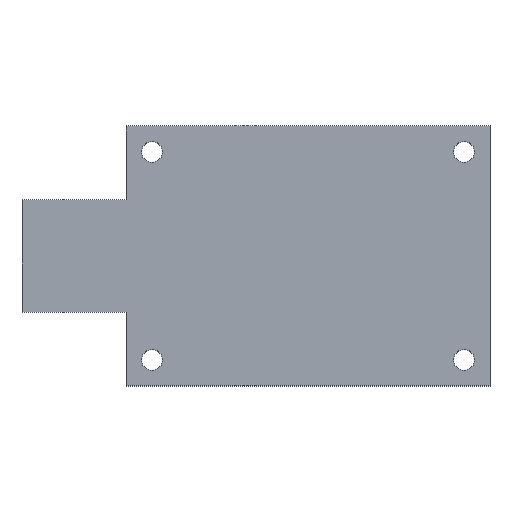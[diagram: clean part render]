
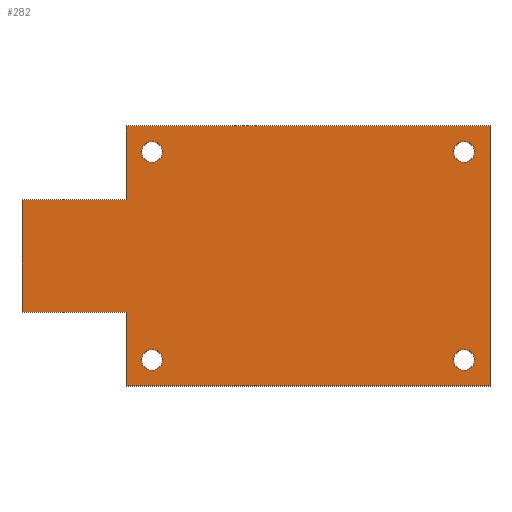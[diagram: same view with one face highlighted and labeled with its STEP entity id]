
A CAD part, top view. The second image highlights one B-rep face of the part: STEP entity #282.
In plain terms, the highlighted planar face has unit normal (0, 0, 1).
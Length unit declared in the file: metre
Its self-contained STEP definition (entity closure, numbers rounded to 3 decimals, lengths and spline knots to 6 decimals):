
#17=CIRCLE('',#312,0.0012);
#18=CIRCLE('',#313,0.0012);
#19=CIRCLE('',#314,0.0012);
#20=CIRCLE('',#315,0.0012);
#59=ORIENTED_EDGE('',*,*,#119,.T.);
#60=ORIENTED_EDGE('',*,*,#120,.T.);
#61=ORIENTED_EDGE('',*,*,#121,.T.);
#62=ORIENTED_EDGE('',*,*,#122,.T.);
#63=ORIENTED_EDGE('',*,*,#97,.F.);
#64=ORIENTED_EDGE('',*,*,#101,.T.);
#65=ORIENTED_EDGE('',*,*,#104,.F.);
#66=ORIENTED_EDGE('',*,*,#107,.F.);
#67=ORIENTED_EDGE('',*,*,#110,.T.);
#68=ORIENTED_EDGE('',*,*,#113,.T.);
#69=ORIENTED_EDGE('',*,*,#116,.T.);
#70=ORIENTED_EDGE('',*,*,#118,.T.);
#97=EDGE_CURVE('',#131,#132,#157,.T.);
#101=EDGE_CURVE('',#131,#134,#161,.T.);
#104=EDGE_CURVE('',#136,#134,#164,.T.);
#107=EDGE_CURVE('',#138,#136,#167,.T.);
#110=EDGE_CURVE('',#138,#140,#170,.T.);
#113=EDGE_CURVE('',#140,#142,#173,.T.);
#116=EDGE_CURVE('',#142,#144,#176,.T.);
#118=EDGE_CURVE('',#144,#132,#178,.T.);
#119=EDGE_CURVE('',#145,#145,#17,.T.);
#120=EDGE_CURVE('',#146,#146,#18,.T.);
#121=EDGE_CURVE('',#147,#147,#19,.T.);
#122=EDGE_CURVE('',#148,#148,#20,.T.);
#131=VERTEX_POINT('',#413);
#132=VERTEX_POINT('',#415);
#134=VERTEX_POINT('',#421);
#136=VERTEX_POINT('',#427);
#138=VERTEX_POINT('',#433);
#140=VERTEX_POINT('',#439);
#142=VERTEX_POINT('',#445);
#144=VERTEX_POINT('',#451);
#145=VERTEX_POINT('',#458);
#146=VERTEX_POINT('',#460);
#147=VERTEX_POINT('',#462);
#148=VERTEX_POINT('',#464);
#157=LINE('',#414,#181);
#161=LINE('',#422,#185);
#164=LINE('',#428,#188);
#167=LINE('',#434,#191);
#170=LINE('',#440,#194);
#173=LINE('',#446,#197);
#176=LINE('',#452,#200);
#178=LINE('',#455,#202);
#181=VECTOR('',#335,1.);
#185=VECTOR('',#341,1.);
#188=VECTOR('',#346,1.);
#191=VECTOR('',#351,1.);
#194=VECTOR('',#356,1.);
#197=VECTOR('',#361,1.);
#200=VECTOR('',#366,1.);
#202=VECTOR('',#370,1.);
#211=EDGE_LOOP('',(#59));
#212=EDGE_LOOP('',(#60));
#213=EDGE_LOOP('',(#61));
#214=EDGE_LOOP('',(#62));
#215=EDGE_LOOP('',(#63,#64,#65,#66,#67,#68,#69,#70));
#241=FACE_BOUND('',#211,.T.);
#242=FACE_BOUND('',#212,.T.);
#243=FACE_BOUND('',#213,.T.);
#244=FACE_BOUND('',#214,.T.);
#245=FACE_BOUND('',#215,.T.);
#271=PLANE('',#311);
#282=ADVANCED_FACE('',(#241,#242,#243,#244,#245),#271,.T.);
#311=AXIS2_PLACEMENT_3D('',#456,#371,#372);
#312=AXIS2_PLACEMENT_3D('',#457,#373,#374);
#313=AXIS2_PLACEMENT_3D('',#459,#375,#376);
#314=AXIS2_PLACEMENT_3D('',#461,#377,#378);
#315=AXIS2_PLACEMENT_3D('',#463,#379,#380);
#335=DIRECTION('',(-1.,0.,0.));
#341=DIRECTION('',(0.,-1.,0.));
#346=DIRECTION('',(-1.,0.,0.));
#351=DIRECTION('',(0.,-1.,0.));
#356=DIRECTION('',(-1.,0.,0.));
#361=DIRECTION('',(0.,-1.,0.));
#366=DIRECTION('',(-1.,0.,0.));
#370=DIRECTION('',(0.,-1.,0.));
#371=DIRECTION('',(0.,0.,1.));
#372=DIRECTION('',(0.,1.,0.));
#373=DIRECTION('',(0.,0.,-1.));
#374=DIRECTION('',(0.,-1.,0.));
#375=DIRECTION('',(0.,0.,-1.));
#376=DIRECTION('',(0.,-1.,0.));
#377=DIRECTION('',(0.,0.,-1.));
#378=DIRECTION('',(0.,-1.,0.));
#379=DIRECTION('',(0.,0.,-1.));
#380=DIRECTION('',(0.,-1.,0.));
#413=CARTESIAN_POINT('',(-0.021,-0.0065,0.006));
#414=CARTESIAN_POINT('',(-0.027,-0.0065,0.006));
#415=CARTESIAN_POINT('',(-0.033,-0.0065,0.006));
#421=CARTESIAN_POINT('',(-0.021,-0.015,0.006));
#422=CARTESIAN_POINT('',(-0.021,-0.01075,0.006));
#427=CARTESIAN_POINT('',(0.021,-0.015,0.006));
#428=CARTESIAN_POINT('',(0.,-0.015,0.006));
#433=CARTESIAN_POINT('',(0.021,0.015,0.006));
#434=CARTESIAN_POINT('',(0.021,0.,0.006));
#439=CARTESIAN_POINT('',(-0.021,0.015,0.006));
#440=CARTESIAN_POINT('',(0.,0.015,0.006));
#445=CARTESIAN_POINT('',(-0.021,0.0065,0.006));
#446=CARTESIAN_POINT('',(-0.021,0.01075,0.006));
#451=CARTESIAN_POINT('',(-0.033,0.0065,0.006));
#452=CARTESIAN_POINT('',(-0.027,0.0065,0.006));
#455=CARTESIAN_POINT('',(-0.033,0.,0.006));
#456=CARTESIAN_POINT('',(-0.006,0.,0.006));
#457=CARTESIAN_POINT('',(0.018,-0.012,0.006));
#458=CARTESIAN_POINT('',(0.018,-0.0132,0.006));
#459=CARTESIAN_POINT('',(0.018,0.012,0.006));
#460=CARTESIAN_POINT('',(0.018,0.0108,0.006));
#461=CARTESIAN_POINT('',(-0.018,0.012,0.006));
#462=CARTESIAN_POINT('',(-0.018,0.0108,0.006));
#463=CARTESIAN_POINT('',(-0.018,-0.012,0.006));
#464=CARTESIAN_POINT('',(-0.018,-0.0132,0.006));
